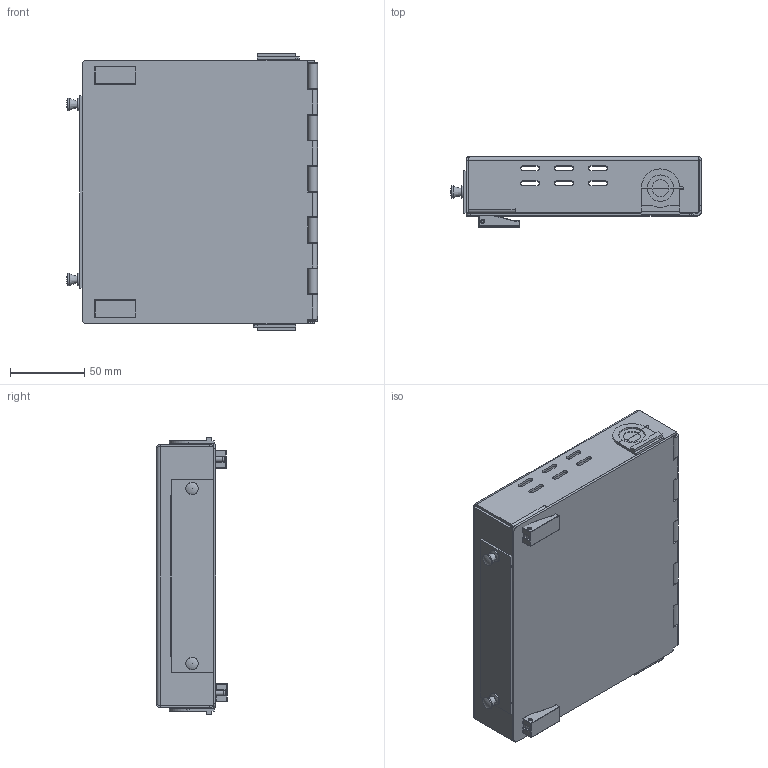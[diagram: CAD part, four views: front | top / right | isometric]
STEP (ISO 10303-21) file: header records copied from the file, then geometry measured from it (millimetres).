
FILE_DESCRIPTION(/* description */ ('STEP AP242','CAx-IF Rec.Pracs.---Representation and Presentation of Product Manufacturing Information (PMI)---4.0---2014-10-13','CAx-IF Rec.Pracs.---3D Tessellated Geometry---0.4---2014-09-14','2;1'),/* implementation_level */ '2;1');
FILE_NAME(/* name */ '6759e2cfd1bf692f6298fe4a',/* time_stamp */ '2024-12-11T19:06:56Z',/* author */ (''),/* organization */ (''),/* preprocessor_version */ 'ST-DEVELOPER v20',/* originating_system */ 'ONSHAPE BY PTC INC, 1.190',/* authorisation */ ' ');
FILE_SCHEMA (('AP242_MANAGED_MODEL_BASED_3D_ENGINEERING_MIM_LF { 1 0 10303 442 1 1 4 }'));
Length unit declared in the file: metre
Products named in the file (21): 1 Plate - Wall Mount Slimline Patch Panel; GR-1.5in-BL; Blank Adapter Plate <1>; Blank LGX Footprint Plate; Mini Snap Latch <1>; Plunger - Mini Snap Latch; Grommet - Mini Snap Latch; Mini Snap Latch <2>; SoCo 19-81-10 <2>; Bushing - 19-81-10; Shaft - 19-81-10; Handle - 19-81-10; Pin - 19-81-10; Small Nut - 19-81-10; Manufacturer Assembly <1>; Door; Hinge Pin; Housing <1>; PEM CLS-440-2  ; Housing; SoCo 19-81-10 <1>
Assembly tree (43 placements, depth 4):
  1 Plate - Wall Mount Slimline Patch Panel
    GR-1.5in-BL  x2
    Blank Adapter Plate <1>
      Blank LGX Footprint Plate
      Mini Snap Latch <1>
        Plunger - Mini Snap Latch
        Grommet - Mini Snap Latch
      Mini Snap Latch <2>
        Grommet - Mini Snap Latch
        Plunger - Mini Snap Latch
    SoCo 19-81-10 <2>
      Bushing - 19-81-10
      Shaft - 19-81-10
      Handle - 19-81-10
      Pin - 19-81-10
      Small Nut - 19-81-10
    Manufacturer Assembly <1>
      Door
      Hinge Pin
      Housing <1>
        PEM CLS-440-2    x16
        Housing
    SoCo 19-81-10 <1>
      Bushing - 19-81-10
      Shaft - 19-81-10
      Small Nut - 19-81-10
      Pin - 19-81-10
      Handle - 19-81-10
Bounding box: 169.25 x 47.6 x 186.36 mm (x, y, z)
Volume: 139764.4 mm3; surface area: 181041.4 mm2
Topology: 36 solids, 36 shells, 2599 faces, 7032 edges, 4565 vertices
Faces by surface type: plane 1903, cylinder 414, cone 128, bspline 94, torus 44, sphere 16
Full cylindrical faces by diameter (mm): 1.956 x4, 1.981 x2, 2.037 x2, 2.108 x2, 2.156 x16, 2.184 x8, 3.175 x1, 3.454 x2, 3.81 x6, 3.937 x2, 4.191 x16, 4.216 x16, 4.3 x2, 5.588 x2, 5.842 x2, 6.35 x19, 8.382 x4, 8.6 x2, 8.712 x2, 9.779 x2
Entity records: 23964 total; most frequent: CARTESIAN_POINT 5087, DIRECTION 3517, ORIENTED_EDGE 3504, EDGE_CURVE 1752, LINE 1187, VECTOR 1187, AXIS2_PLACEMENT_3D 1165, VERTEX_POINT 1159
